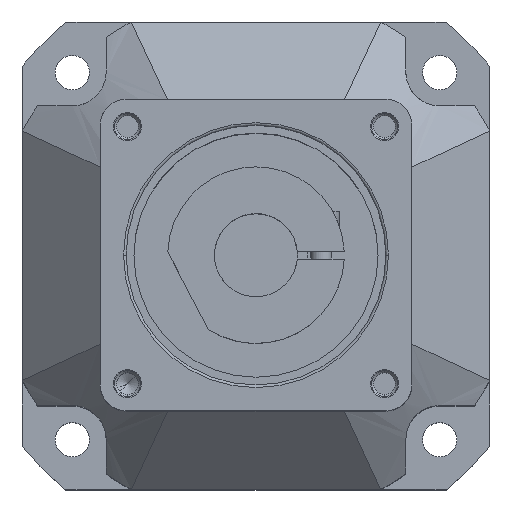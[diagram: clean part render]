
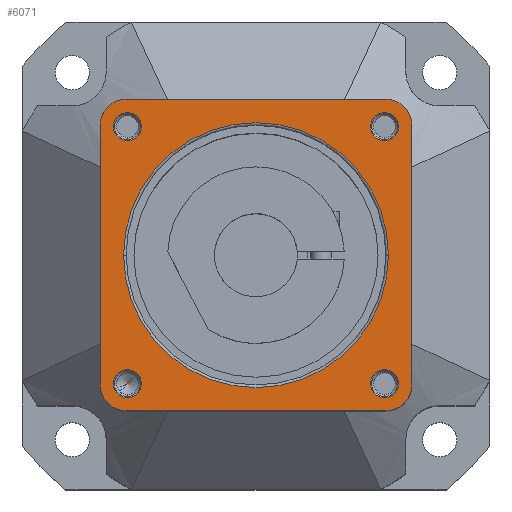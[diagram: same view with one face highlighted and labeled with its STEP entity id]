
A CAD part, top view. The second image highlights one B-rep face of the part: STEP entity #6071.
In plain terms, the highlighted planar face has unit normal (0, 0, 1) as drawn and (0, 1, 0) by its records, which use the part's own axes.
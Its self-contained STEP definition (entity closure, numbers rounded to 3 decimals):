
#4836=CARTESIAN_POINT('',(-25.,41.5,-25.));
#4837=DIRECTION('',(0.,1.,0.));
#4838=DIRECTION('',(0.,0.,-1.));
#4839=AXIS2_PLACEMENT_3D('',#4836,#4837,#4838);
#4841=DIRECTION('',(-1.,0.,0.));
#4842=VECTOR('',#4841,50.);
#4843=CARTESIAN_POINT('',(25.,41.5,-30.));
#4844=LINE('',#4843,#4842);
#4845=CARTESIAN_POINT('',(25.,41.5,-25.));
#4846=DIRECTION('',(0.,1.,0.));
#4847=DIRECTION('',(1.,0.,0.));
#4848=AXIS2_PLACEMENT_3D('',#4845,#4846,#4847);
#4850=DIRECTION('',(0.,0.,-1.));
#4851=VECTOR('',#4850,50.);
#4852=CARTESIAN_POINT('',(30.,41.5,25.));
#4853=LINE('',#4852,#4851);
#4854=CARTESIAN_POINT('',(25.,41.5,25.));
#4855=DIRECTION('',(0.,1.,0.));
#4856=DIRECTION('',(0.,0.,1.));
#4857=AXIS2_PLACEMENT_3D('',#4854,#4855,#4856);
#4859=DIRECTION('',(1.,0.,0.));
#4860=VECTOR('',#4859,50.);
#4861=CARTESIAN_POINT('',(-25.,41.5,30.));
#4862=LINE('',#4861,#4860);
#4863=CARTESIAN_POINT('',(-25.,41.5,25.));
#4864=DIRECTION('',(0.,1.,0.));
#4865=DIRECTION('',(-1.,0.,0.));
#4866=AXIS2_PLACEMENT_3D('',#4863,#4864,#4865);
#4868=DIRECTION('',(0.,0.,1.));
#4869=VECTOR('',#4868,50.);
#4870=CARTESIAN_POINT('',(-30.,41.5,-25.));
#4871=LINE('',#4870,#4869);
#4872=CARTESIAN_POINT('',(-24.749,41.5,24.749));
#4873=DIRECTION('',(0.,-1.,0.));
#4874=DIRECTION('',(1.,0.,0.));
#4875=AXIS2_PLACEMENT_3D('',#4872,#4873,#4874);
#4882=CARTESIAN_POINT('',(-24.749,41.5,24.749));
#4883=DIRECTION('',(0.,-1.,0.));
#4884=DIRECTION('',(-1.,0.,0.));
#4885=AXIS2_PLACEMENT_3D('',#4882,#4883,#4884);
#4918=CARTESIAN_POINT('',(-24.749,41.5,-24.749));
#4919=DIRECTION('',(0.,-1.,0.));
#4920=DIRECTION('',(1.,0.,0.));
#4921=AXIS2_PLACEMENT_3D('',#4918,#4919,#4920);
#4928=CARTESIAN_POINT('',(-24.749,41.5,-24.749));
#4929=DIRECTION('',(0.,-1.,0.));
#4930=DIRECTION('',(-1.,0.,0.));
#4931=AXIS2_PLACEMENT_3D('',#4928,#4929,#4930);
#4964=CARTESIAN_POINT('',(24.749,41.5,-24.749));
#4965=DIRECTION('',(0.,-1.,0.));
#4966=DIRECTION('',(1.,0.,0.));
#4967=AXIS2_PLACEMENT_3D('',#4964,#4965,#4966);
#4974=CARTESIAN_POINT('',(24.749,41.5,-24.749));
#4975=DIRECTION('',(0.,-1.,0.));
#4976=DIRECTION('',(-1.,0.,0.));
#4977=AXIS2_PLACEMENT_3D('',#4974,#4975,#4976);
#5014=CARTESIAN_POINT('',(24.749,41.5,24.749));
#5015=DIRECTION('',(0.,-1.,0.));
#5016=DIRECTION('',(1.,0.,0.));
#5017=AXIS2_PLACEMENT_3D('',#5014,#5015,#5016);
#5024=CARTESIAN_POINT('',(24.749,41.5,24.749));
#5025=DIRECTION('',(0.,-1.,0.));
#5026=DIRECTION('',(-1.,0.,0.));
#5027=AXIS2_PLACEMENT_3D('',#5024,#5025,#5026);
#5078=CARTESIAN_POINT('',(0.,41.5,0.));
#5079=DIRECTION('',(0.,-1.,0.));
#5080=DIRECTION('',(0.,0.,1.));
#5081=AXIS2_PLACEMENT_3D('',#5078,#5079,#5080);
#5093=CARTESIAN_POINT('',(0.,41.5,0.));
#5094=DIRECTION('',(0.,-1.,0.));
#5095=DIRECTION('',(0.,0.,-1.));
#5096=AXIS2_PLACEMENT_3D('',#5093,#5094,#5095);
#5298=CARTESIAN_POINT('',(-30.,41.5,-25.));
#5299=CARTESIAN_POINT('',(-30.,41.5,25.));
#5300=VERTEX_POINT('',#5298);
#5301=VERTEX_POINT('',#5299);
#5302=CARTESIAN_POINT('',(-25.,41.5,30.));
#5303=CARTESIAN_POINT('',(25.,41.5,30.));
#5304=VERTEX_POINT('',#5302);
#5305=VERTEX_POINT('',#5303);
#5306=CARTESIAN_POINT('',(30.,41.5,25.));
#5307=CARTESIAN_POINT('',(30.,41.5,-25.));
#5308=VERTEX_POINT('',#5306);
#5309=VERTEX_POINT('',#5307);
#5310=CARTESIAN_POINT('',(25.,41.5,-30.));
#5311=CARTESIAN_POINT('',(-25.,41.5,-30.));
#5312=VERTEX_POINT('',#5310);
#5313=VERTEX_POINT('',#5311);
#5396=CARTESIAN_POINT('',(27.449,41.5,24.749));
#5397=CARTESIAN_POINT('',(22.049,41.5,24.749));
#5398=VERTEX_POINT('',#5396);
#5399=VERTEX_POINT('',#5397);
#5404=CARTESIAN_POINT('',(-22.049,41.5,24.749));
#5405=CARTESIAN_POINT('',(-27.449,41.5,24.749));
#5406=VERTEX_POINT('',#5404);
#5407=VERTEX_POINT('',#5405);
#5412=CARTESIAN_POINT('',(-22.049,41.5,-24.749));
#5413=CARTESIAN_POINT('',(-27.449,41.5,-24.749));
#5414=VERTEX_POINT('',#5412);
#5415=VERTEX_POINT('',#5413);
#5420=CARTESIAN_POINT('',(27.449,41.5,-24.749));
#5421=CARTESIAN_POINT('',(22.049,41.5,-24.749));
#5422=VERTEX_POINT('',#5420);
#5423=VERTEX_POINT('',#5421);
#5468=CARTESIAN_POINT('',(0.,41.5,25.5));
#5469=CARTESIAN_POINT('',(0.,41.5,-25.5));
#5470=VERTEX_POINT('',#5468);
#5471=VERTEX_POINT('',#5469);
#6025=CARTESIAN_POINT('',(0.,41.5,0.));
#6026=DIRECTION('',(0.,-1.,0.));
#6027=DIRECTION('',(-1.,0.,0.));
#6028=AXIS2_PLACEMENT_3D('',#6025,#6026,#6027);
#6029=PLANE('',#6028);
#6030=ORIENTED_EDGE('',*,*,#5923,.F.);
#6031=ORIENTED_EDGE('',*,*,#5941,.F.);
#6032=ORIENTED_EDGE('',*,*,#6019,.F.);
#6033=ORIENTED_EDGE('',*,*,#5728,.F.);
#6034=ORIENTED_EDGE('',*,*,#5747,.F.);
#6035=ORIENTED_EDGE('',*,*,#5763,.F.);
#6037=ORIENTED_EDGE('',*,*,#6036,.F.);
#6038=ORIENTED_EDGE('',*,*,#5848,.F.);
#6039=EDGE_LOOP('',(#6030,#6031,#6032,#6033,#6034,#6035,#6037,#6038));
#6040=FACE_OUTER_BOUND('',#6039,.F.);
#6042=ORIENTED_EDGE('',*,*,#6041,.F.);
#6044=ORIENTED_EDGE('',*,*,#6043,.F.);
#6045=EDGE_LOOP('',(#6042,#6044));
#6046=FACE_BOUND('',#6045,.F.);
#6048=ORIENTED_EDGE('',*,*,#6047,.F.);
#6050=ORIENTED_EDGE('',*,*,#6049,.F.);
#6051=EDGE_LOOP('',(#6048,#6050));
#6052=FACE_BOUND('',#6051,.F.);
#6054=ORIENTED_EDGE('',*,*,#6053,.F.);
#6056=ORIENTED_EDGE('',*,*,#6055,.F.);
#6057=EDGE_LOOP('',(#6054,#6056));
#6058=FACE_BOUND('',#6057,.F.);
#6060=ORIENTED_EDGE('',*,*,#6059,.F.);
#6062=ORIENTED_EDGE('',*,*,#6061,.F.);
#6063=EDGE_LOOP('',(#6060,#6062));
#6064=FACE_BOUND('',#6063,.F.);
#6066=ORIENTED_EDGE('',*,*,#6065,.F.);
#6068=ORIENTED_EDGE('',*,*,#6067,.F.);
#6069=EDGE_LOOP('',(#6066,#6068));
#6070=FACE_BOUND('',#6069,.F.);
#6071=ADVANCED_FACE('',(#6040,#6046,#6052,#6058,#6064,#6070),#6029,.F.);
#4840=CIRCLE('',#4839,5.);
#4849=CIRCLE('',#4848,5.);
#4858=CIRCLE('',#4857,5.);
#4867=CIRCLE('',#4866,5.);
#4876=CIRCLE('',#4875,2.7);
#4886=CIRCLE('',#4885,2.7);
#4922=CIRCLE('',#4921,2.7);
#4932=CIRCLE('',#4931,2.7);
#4968=CIRCLE('',#4967,2.7);
#4978=CIRCLE('',#4977,2.7);
#5018=CIRCLE('',#5017,2.7);
#5028=CIRCLE('',#5027,2.7);
#5082=CIRCLE('',#5081,25.5);
#5097=CIRCLE('',#5096,25.5);
#5728=EDGE_CURVE('',#5308,#5309,#4853,.T.);
#5747=EDGE_CURVE('',#5305,#5308,#4858,.T.);
#5763=EDGE_CURVE('',#5304,#5305,#4862,.T.);
#5848=EDGE_CURVE('',#5300,#5301,#4871,.T.);
#5923=EDGE_CURVE('',#5313,#5300,#4840,.T.);
#5941=EDGE_CURVE('',#5312,#5313,#4844,.T.);
#6019=EDGE_CURVE('',#5309,#5312,#4849,.T.);
#6036=EDGE_CURVE('',#5301,#5304,#4867,.T.);
#6041=EDGE_CURVE('',#5406,#5407,#4876,.T.);
#6043=EDGE_CURVE('',#5407,#5406,#4886,.T.);
#6047=EDGE_CURVE('',#5414,#5415,#4922,.T.);
#6049=EDGE_CURVE('',#5415,#5414,#4932,.T.);
#6053=EDGE_CURVE('',#5422,#5423,#4968,.T.);
#6055=EDGE_CURVE('',#5423,#5422,#4978,.T.);
#6059=EDGE_CURVE('',#5398,#5399,#5018,.T.);
#6061=EDGE_CURVE('',#5399,#5398,#5028,.T.);
#6065=EDGE_CURVE('',#5470,#5471,#5082,.T.);
#6067=EDGE_CURVE('',#5471,#5470,#5097,.T.);
